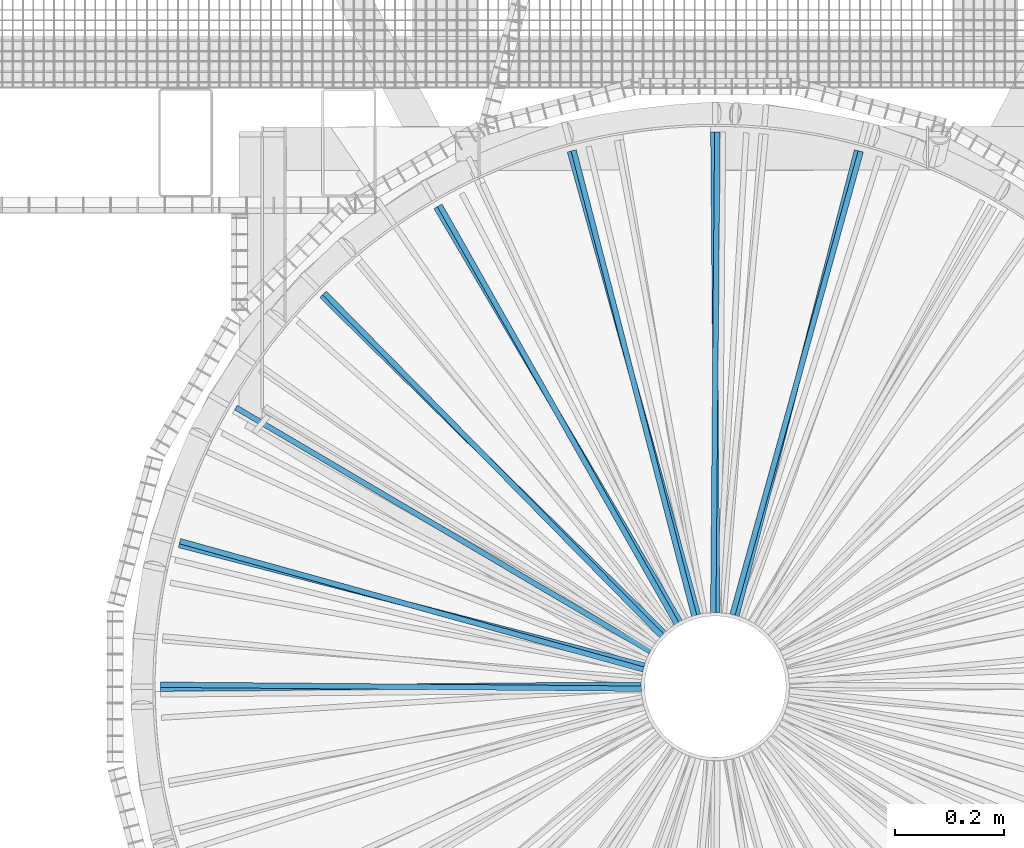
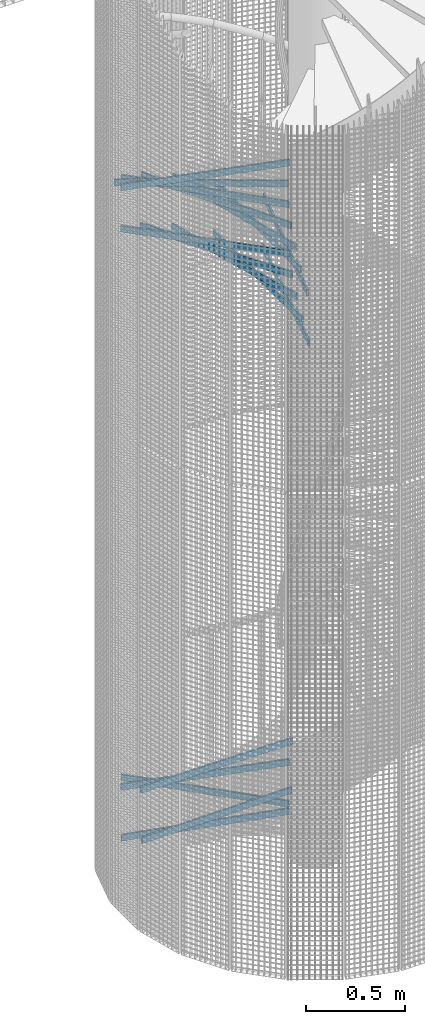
# One storey, part 228 of 1183: 17 beams, 1 element without a shape of its own.
"""IFC2X3 building model written with IfcOpenShell, lengths in millimetres."""

from ifc_helpers import new_model, si_unit, frame, origin_with_axes, origin_2d_with_axis, place, context, subcontext, project, spatial, polyline, rectangle, outline, extrude, boolean, material, type_object, element, aggregate, save


model = new_model("IFC2X3")

# Units and contexts
model_context = context("Model", 3, precision=1e-05, world=origin_with_axes())
body_context = subcontext(model_context, "Body", "Model", "MODEL_VIEW")
ifc_project = project(units=[si_unit("LENGTHUNIT", "METRE", prefix="MILLI"), si_unit("AREAUNIT", "SQUARE_METRE"), si_unit("VOLUMEUNIT", "CUBIC_METRE"), si_unit("MASSUNIT", "GRAM", prefix="KILO"), si_unit("TIMEUNIT", "SECOND"), si_unit("PLANEANGLEUNIT", "RADIAN"), si_unit("SOLIDANGLEUNIT", "STERADIAN"), si_unit("THERMODYNAMICTEMPERATUREUNIT", "DEGREE_CELSIUS"), si_unit("LUMINOUSINTENSITYUNIT", "LUMEN")], contexts=[model_context])

# Site, building, storey
site_placement = place(None, origin_with_axes())
site = spatial("IfcSite", under=ifc_project, at=site_placement, Name="Undefined", CompositionType="ELEMENT")
building_placement = place(site_placement, origin_with_axes())
building = spatial("IfcBuilding", under=site, at=building_placement, Name="Undefined", CompositionType="ELEMENT")
storey_placement = place(building_placement, origin_with_axes())
storey = spatial("IfcBuildingStorey", under=building, at=storey_placement, Name="Undefined", CompositionType="ELEMENT", Elevation=0.0)

# Assembly, beams
assembly_placement = place(storey_placement, origin_with_axes())
assembly = element("IfcElementAssembly", 1, at=assembly_placement, inside=storey, Name="POTEAU", AssemblyPlace="NOTDEFINED", PredefinedType="NOTDEFINED")
ifc_material = material(Name="STEEL/S235JR")
beam_type = type_object("IfcBeamType", Name="PL10*40", PredefinedType="NOTDEFINED")
beam_1_placement = place(assembly_placement, frame((17.5845129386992, 82.1984248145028, 3375.44), z_axis=(0.0, 0.0, 1.0), x_axis=(0.266990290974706, 0.963699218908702, 0.0)))
beam_1 = element("IfcBeam", 2, at=beam_1_placement, type_object=beam_type, material=ifc_material, Name="RAIDISSEUR", context=body_context, shape_type="CSG", body=[
    boolean("DIFFERENCE", extrude(rectangle(XDim=10.0, YDim=40.0, at=origin_2d_with_axis()), frame((935.982964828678, -2.59787459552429e-14, -3.63797880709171e-12), z_axis=(-1.0, 0.0, 0.0), x_axis=(0.0, -1.0, 0.0)), (0.0, 0.0, 1.0), 935.98), extrude(outline(polyline([(0.0, 0.0), (30.5663019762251, -4.91127138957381e-11), (60.366242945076, 6.80164206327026), (87.9055294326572, 20.0638634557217), (111.803226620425, 39.1216410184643), (130.861004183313, 63.0193382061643), (144.123225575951, 90.5586246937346), (150.9248676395, 120.358565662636), (150.924867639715, 150.924867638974), (144.123225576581, 180.724808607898), (130.86100418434, 208.264095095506), (111.803226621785, 232.161792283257), (87.9055294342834, 251.219569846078), (60.3662429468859, 264.481791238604), (30.5663019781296, 271.283433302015), (1.90266291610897e-09, 271.28343330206), (-29.7999409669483, 264.481791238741), (-57.3392274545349, 251.219569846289), (-81.2369246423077, 232.161792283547), (-100.294702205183, 208.26409509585), (-113.556923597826, 180.724808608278), (-120.35856566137, 150.92486763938), (-120.358565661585, 120.358565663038), (-113.556923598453, 90.5586246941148), (-100.294702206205, 63.0193382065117), (-81.2369246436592, 39.1216410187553), (-57.3392274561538, 20.0638634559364), (-29.7999409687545, 6.80164206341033), (0.0, 0.0)])), frame((-117.062792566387, 127.412635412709, -22.4999999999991), z_axis=(0.0, 0.0, 1.0), x_axis=(-0.936762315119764, -0.349966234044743, 0.0)), (0.0, 0.0, 1.0), 45.0)),
])
beam_2_placement = place(assembly_placement, frame((-38.2598530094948, 74.8463745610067, 3529.96), z_axis=(0.0, 0.0, 1.0), x_axis=(-0.507316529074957, 0.861759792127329, 0.0)))
beam_2 = element("IfcBeam", 3, at=beam_2_placement, type_object=beam_type, material=ifc_material, Name="RAIDISSEUR", context=body_context, shape_type="CSG", body=[
    boolean("DIFFERENCE", extrude(rectangle(XDim=10.0, YDim=40.0, at=origin_2d_with_axis()), frame((935.982964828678, -2.59787459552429e-14, -3.63797880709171e-12), z_axis=(-1.0, 0.0, 0.0), x_axis=(0.0, -1.0, 0.0)), (0.0, 0.0, 1.0), 935.98), extrude(outline(polyline([(0.0, 0.0), (30.5663019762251, -4.91127138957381e-11), (60.366242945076, 6.80164206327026), (87.9055294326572, 20.0638634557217), (111.803226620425, 39.1216410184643), (130.861004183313, 63.0193382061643), (144.123225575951, 90.5586246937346), (150.9248676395, 120.358565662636), (150.924867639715, 150.924867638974), (144.123225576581, 180.724808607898), (130.86100418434, 208.264095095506), (111.803226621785, 232.161792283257), (87.9055294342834, 251.219569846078), (60.3662429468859, 264.481791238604), (30.5663019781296, 271.283433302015), (1.90266291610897e-09, 271.28343330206), (-29.7999409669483, 264.481791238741), (-57.3392274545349, 251.219569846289), (-81.2369246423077, 232.161792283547), (-100.294702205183, 208.26409509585), (-113.556923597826, 180.724808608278), (-120.35856566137, 150.92486763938), (-120.358565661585, 120.358565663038), (-113.556923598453, 90.5586246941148), (-100.294702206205, 63.0193382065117), (-81.2369246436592, 39.1216410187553), (-57.3392274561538, 20.0638634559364), (-29.7999409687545, 6.80164206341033), (0.0, 0.0)])), frame((-11.7496667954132, 120.867231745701, -22.5), z_axis=(0.0, 0.0, 1.0), x_axis=(-0.902696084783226, 0.430278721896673, 0.0)), (0.0, 0.0, 1.0), 45.0)),
])
beam_3_placement = place(assembly_placement, frame((-56.3278473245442, 62.3936675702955, 3684.48), z_axis=(0.0, 0.0, 1.0), x_axis=(-0.713069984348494, 0.70109285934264, 0.0)))
beam_3 = element("IfcBeam", 4, at=beam_3_placement, type_object=beam_type, material=ifc_material, Name="RAIDISSEUR", context=body_context, shape_type="CSG", body=[
    boolean("DIFFERENCE", extrude(rectangle(XDim=10.0, YDim=40.0, at=origin_2d_with_axis()), frame((935.982964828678, -2.59787459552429e-14, -3.63797880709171e-12), z_axis=(-1.0, 0.0, 0.0), x_axis=(0.0, -1.0, 0.0)), (0.0, 0.0, 1.0), 935.98), extrude(outline(polyline([(0.0, 0.0), (30.5663019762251, -4.91127138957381e-11), (60.366242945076, 6.80164206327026), (87.9055294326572, 20.0638634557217), (111.803226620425, 39.1216410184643), (130.861004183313, 63.0193382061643), (144.123225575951, 90.5586246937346), (150.9248676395, 120.358565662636), (150.924867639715, 150.924867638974), (144.123225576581, 180.724808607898), (130.86100418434, 208.264095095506), (111.803226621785, 232.161792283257), (87.9055294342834, 251.219569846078), (60.3662429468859, 264.481791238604), (30.5663019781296, 271.283433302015), (1.90266291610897e-09, 271.28343330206), (-29.7999409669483, 264.481791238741), (-57.3392274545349, 251.219569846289), (-81.2369246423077, 232.161792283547), (-100.294702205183, 208.26409509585), (-113.556923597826, 180.724808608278), (-120.35856566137, 150.92486763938), (-120.358565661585, 120.358565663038), (-113.556923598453, 90.5586246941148), (-100.294702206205, 63.0193382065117), (-81.2369246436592, 39.1216410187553), (-57.3392274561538, 20.0638634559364), (-29.7999409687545, 6.80164206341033), (0.0, 0.0)])), frame((15.7801944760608, 98.2428248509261, -22.5), z_axis=(0.0, 0.0, 1.0), x_axis=(-0.760573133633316, 0.649252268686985, 0.0)), (0.0, 0.0, 1.0), 45.0)),
])
beam_4_placement = place(assembly_placement, frame((-74.8463745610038, 38.2598530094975, 4148.04), z_axis=(0.0, 0.0, 1.0), x_axis=(-0.861759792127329, 0.507316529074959, 0.0)))
beam_4 = element("IfcBeam", 5, at=beam_4_placement, type_object=beam_type, material=ifc_material, Name="RAIDISSEUR", context=body_context, shape_type="CSG", body=[
    boolean("DIFFERENCE", extrude(rectangle(XDim=10.0, YDim=40.0, at=origin_2d_with_axis()), frame((935.982964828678, -2.59787459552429e-14, -3.63797880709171e-12), z_axis=(-1.0, 0.0, 0.0), x_axis=(0.0, -1.0, 0.0)), (0.0, 0.0, 1.0), 935.98), extrude(outline(polyline([(0.0, 0.0), (30.5663019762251, -4.91127138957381e-11), (60.366242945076, 6.80164206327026), (87.9055294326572, 20.0638634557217), (111.803226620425, 39.1216410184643), (130.861004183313, 63.0193382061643), (144.123225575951, 90.5586246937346), (150.9248676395, 120.358565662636), (150.924867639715, 150.924867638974), (144.123225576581, 180.724808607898), (130.86100418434, 208.264095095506), (111.803226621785, 232.161792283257), (87.9055294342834, 251.219569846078), (60.3662429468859, 264.481791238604), (30.5663019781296, 271.283433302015), (1.90266291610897e-09, 271.28343330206), (-29.7999409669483, 264.481791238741), (-57.3392274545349, 251.219569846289), (-81.2369246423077, 232.161792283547), (-100.294702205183, 208.26409509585), (-113.556923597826, 180.724808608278), (-120.35856566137, 150.92486763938), (-120.358565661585, 120.358565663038), (-113.556923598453, 90.5586246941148), (-100.294702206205, 63.0193382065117), (-81.2369246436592, 39.1216410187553), (-57.3392274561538, 20.0638634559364), (-29.7999409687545, 6.80164206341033), (0.0, 0.0)])), frame((35.4106162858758, 61.2945797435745, -22.5), z_axis=(0.0, 0.0, 1.0), x_axis=(-0.580493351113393, 0.814264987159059, 0.0)), (0.0, 0.0, 1.0), 45.0)),
])
beam_5_placement = place(assembly_placement, frame((-82.1984248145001, 17.5845129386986, 4302.56), z_axis=(0.0, 0.0, 1.0), x_axis=(-0.963699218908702, 0.266990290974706, 0.0)))
beam_5 = element("IfcBeam", 6, at=beam_5_placement, type_object=beam_type, material=ifc_material, Name="RAIDISSEUR", context=body_context, shape_type="CSG", body=[
    boolean("DIFFERENCE", extrude(rectangle(XDim=10.0, YDim=40.0, at=origin_2d_with_axis()), frame((935.982964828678, -2.59787459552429e-14, -3.63797880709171e-12), z_axis=(-1.0, 0.0, 0.0), x_axis=(0.0, -1.0, 0.0)), (0.0, 0.0, 1.0), 935.98), extrude(outline(polyline([(0.0, 0.0), (30.5663019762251, -4.91127138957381e-11), (60.366242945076, 6.80164206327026), (87.9055294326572, 20.0638634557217), (111.803226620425, 39.1216410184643), (130.861004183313, 63.0193382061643), (144.123225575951, 90.5586246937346), (150.9248676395, 120.358565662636), (150.924867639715, 150.924867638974), (144.123225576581, 180.724808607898), (130.86100418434, 208.264095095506), (111.803226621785, 232.161792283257), (87.9055294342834, 251.219569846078), (60.3662429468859, 264.481791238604), (30.5663019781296, 271.283433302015), (1.90266291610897e-09, 271.28343330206), (-29.7999409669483, 264.481791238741), (-57.3392274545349, 251.219569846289), (-81.2369246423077, 232.161792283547), (-100.294702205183, 208.26409509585), (-113.556923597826, 180.724808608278), (-120.35856566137, 150.92486763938), (-120.358565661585, 120.358565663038), (-113.556923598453, 90.5586246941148), (-100.294702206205, 63.0193382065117), (-81.2369246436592, 39.1216410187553), (-57.3392274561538, 20.0638634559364), (-29.7999409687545, 6.80164206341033), (0.0, 0.0)])), frame((48.5031833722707, 28.1533405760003, -22.5), z_axis=(0.0, 0.0, 1.0), x_axis=(-0.349966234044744, 0.936762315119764, 0.0)), (0.0, 0.0, 1.0), 45.0)),
])
beam_6_placement = place(assembly_placement, frame((-4.28918262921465, 83.9487882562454, 3529.96), z_axis=(0.0, 0.0, 1.0), x_axis=(0.00846910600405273, 0.99996413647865, 0.0)))
beam_6 = element("IfcBeam", 7, at=beam_6_placement, type_object=beam_type, material=ifc_material, Name="RAIDISSEUR", context=body_context, shape_type="CSG", body=[
    boolean("DIFFERENCE", extrude(rectangle(XDim=10.0, YDim=40.0, at=origin_2d_with_axis()), frame((935.982964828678, -2.59787459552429e-14, -3.63797880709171e-12), z_axis=(-1.0, 0.0, 0.0), x_axis=(0.0, -1.0, 0.0)), (0.0, 0.0, 1.0), 935.98), extrude(outline(polyline([(0.0, 0.0), (30.5663019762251, -4.91127138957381e-11), (60.366242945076, 6.80164206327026), (87.9055294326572, 20.0638634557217), (111.803226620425, 39.1216410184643), (130.861004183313, 63.0193382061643), (144.123225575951, 90.5586246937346), (150.9248676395, 120.358565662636), (150.924867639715, 150.924867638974), (144.123225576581, 180.724808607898), (130.86100418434, 208.264095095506), (111.803226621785, 232.161792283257), (87.9055294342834, 251.219569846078), (60.3662429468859, 264.481791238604), (30.5663019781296, 271.283433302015), (1.90266291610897e-09, 271.28343330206), (-29.7999409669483, 264.481791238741), (-57.3392274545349, 251.219569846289), (-81.2369246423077, 232.161792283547), (-100.294702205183, 208.26409509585), (-113.556923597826, 180.724808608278), (-120.35856566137, 150.92486763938), (-120.358565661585, 120.358565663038), (-113.556923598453, 90.5586246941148), (-100.294702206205, 63.0193382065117), (-81.2369246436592, 39.1216410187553), (-57.3392274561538, 20.0638634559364), (-29.7999409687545, 6.80164206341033), (0.0, 0.0)])), frame((-81.6622080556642, 131.481500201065, -22.5000000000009), z_axis=(0.0, 0.0, 1.0), x_axis=(-0.995420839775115, -0.0955894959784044, 0.0)), (0.0, 0.0, 1.0), 45.0)),
])
beam_7_placement = place(assembly_placement, frame((4.28918262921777, 83.9487882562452, 3220.92), z_axis=(0.0, 0.0, 1.0), x_axis=(-0.00846910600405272, 0.99996413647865, 0.0)))
beam_7 = element("IfcBeam", 8, at=beam_7_placement, type_object=beam_type, material=ifc_material, Name="RAIDISSEUR", context=body_context, shape_type="CSG", body=[
    boolean("DIFFERENCE", extrude(rectangle(XDim=10.0, YDim=40.0, at=origin_2d_with_axis()), frame((935.982964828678, -2.59787459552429e-14, -3.63797880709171e-12), z_axis=(-1.0, 0.0, 0.0), x_axis=(0.0, -1.0, 0.0)), (0.0, 0.0, 1.0), 935.98), extrude(outline(polyline([(0.0, 0.0), (30.5663019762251, -4.91127138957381e-11), (60.366242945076, 6.80164206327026), (87.9055294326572, 20.0638634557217), (111.803226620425, 39.1216410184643), (130.861004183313, 63.0193382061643), (144.123225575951, 90.5586246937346), (150.9248676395, 120.358565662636), (150.924867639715, 150.924867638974), (144.123225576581, 180.724808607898), (130.86100418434, 208.264095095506), (111.803226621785, 232.161792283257), (87.9055294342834, 251.219569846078), (60.3662429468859, 264.481791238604), (30.5663019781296, 271.283433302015), (1.90266291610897e-09, 271.28343330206), (-29.7999409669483, 264.481791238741), (-57.3392274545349, 251.219569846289), (-81.2369246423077, 232.161792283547), (-100.294702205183, 208.26409509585), (-113.556923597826, 180.724808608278), (-120.35856566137, 150.92486763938), (-120.358565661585, 120.358565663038), (-113.556923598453, 90.5586246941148), (-100.294702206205, 63.0193382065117), (-81.2369246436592, 39.1216410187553), (-57.3392274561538, 20.0638634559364), (-29.7999409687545, 6.80164206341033), (0.0, 0.0)])), frame((-79.3508607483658, 141.423858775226, -22.5), z_axis=(0.0, 0.0, 1.0), x_axis=(-0.996897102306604, -0.0787157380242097, 0.0)), (0.0, 0.0, 1.0), 45.0)),
])
beam_8_placement = place(assembly_placement, frame((-62.393667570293, 56.3278473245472, 285.04), z_axis=(0.0, 0.0, 1.0), x_axis=(-0.70109285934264, 0.713069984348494, 0.0)))
beam_8 = element("IfcBeam", 9, at=beam_8_placement, type_object=beam_type, material=ifc_material, Name="RAIDISSEUR", context=body_context, shape_type="CSG", body=[
    boolean("DIFFERENCE", extrude(rectangle(XDim=10.0, YDim=40.0, at=origin_2d_with_axis()), frame((935.982964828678, -2.59787459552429e-14, -3.63797880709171e-12), z_axis=(-1.0, 0.0, 0.0), x_axis=(0.0, -1.0, 0.0)), (0.0, 0.0, 1.0), 935.98), extrude(outline(polyline([(0.0, 0.0), (30.5663019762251, -4.91127138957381e-11), (60.366242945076, 6.80164206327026), (87.9055294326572, 20.0638634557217), (111.803226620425, 39.1216410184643), (130.861004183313, 63.0193382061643), (144.123225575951, 90.5586246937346), (150.9248676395, 120.358565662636), (150.924867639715, 150.924867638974), (144.123225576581, 180.724808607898), (130.86100418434, 208.264095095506), (111.803226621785, 232.161792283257), (87.9055294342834, 251.219569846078), (60.3662429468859, 264.481791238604), (30.5663019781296, 271.283433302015), (1.90266291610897e-09, 271.28343330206), (-29.7999409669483, 264.481791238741), (-57.3392274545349, 251.219569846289), (-81.2369246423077, 232.161792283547), (-100.294702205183, 208.26409509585), (-113.556923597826, 180.724808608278), (-120.35856566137, 150.92486763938), (-120.358565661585, 120.358565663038), (-113.556923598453, 90.5586246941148), (-100.294702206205, 63.0193382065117), (-81.2369246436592, 39.1216410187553), (-57.3392274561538, 20.0638634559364), (-29.7999409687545, 6.80164206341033), (0.0, 0.0)])), frame((14.1865836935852, 89.9179528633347, -22.5), z_axis=(0.0, 0.0, 1.0), x_axis=(-0.771460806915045, 0.636276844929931, 0.0)), (0.0, 0.0, 1.0), 45.0)),
])
beam_9_placement = place(assembly_placement, frame((-79.9781805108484, 25.8705774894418, 285.04), z_axis=(0.0, 0.0, 1.0), x_axis=(-0.968083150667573, 0.250629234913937, 0.0)))
beam_9 = element("IfcBeam", 10, at=beam_9_placement, type_object=beam_type, material=ifc_material, Name="RAIDISSEUR", context=body_context, shape_type="CSG", body=[
    boolean("DIFFERENCE", extrude(rectangle(XDim=10.0, YDim=40.0, at=origin_2d_with_axis()), frame((935.982964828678, -2.59787459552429e-14, -3.63797880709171e-12), z_axis=(-1.0, 0.0, 0.0), x_axis=(0.0, -1.0, 0.0)), (0.0, 0.0, 1.0), 935.98), extrude(outline(polyline([(0.0, 0.0), (30.5663019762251, -4.91127138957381e-11), (60.366242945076, 6.80164206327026), (87.9055294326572, 20.0638634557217), (111.803226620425, 39.1216410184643), (130.861004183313, 63.0193382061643), (144.123225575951, 90.5586246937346), (150.9248676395, 120.358565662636), (150.924867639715, 150.924867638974), (144.123225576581, 180.724808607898), (130.86100418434, 208.264095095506), (111.803226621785, 232.161792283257), (87.9055294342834, 251.219569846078), (60.3662429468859, 264.481791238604), (30.5663019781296, 271.283433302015), (1.90266291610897e-09, 271.28343330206), (-29.7999409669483, 264.481791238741), (-57.3392274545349, 251.219569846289), (-81.2369246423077, 232.161792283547), (-100.294702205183, 208.26409509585), (-113.556923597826, 180.724808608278), (-120.35856566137, 150.92486763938), (-120.358565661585, 120.358565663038), (-113.556923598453, 90.5586246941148), (-100.294702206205, 63.0193382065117), (-81.2369246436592, 39.1216410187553), (-57.3392274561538, 20.0638634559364), (-29.7999409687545, 6.80164206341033), (0.0, 0.0)])), frame((49.045726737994, 35.9058318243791, -22.5), z_axis=(0.0, 0.0, 1.0), x_axis=(-0.334049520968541, 0.942555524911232, 0.0)), (0.0, 0.0, 1.0), 45.0)),
])
beam_10_placement = place(assembly_placement, frame((-82.1984248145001, 17.5845129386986, 594.08), z_axis=(0.0, 0.0, 1.0), x_axis=(-0.963699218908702, 0.266990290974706, 0.0)))
beam_10 = element("IfcBeam", 11, at=beam_10_placement, type_object=beam_type, material=ifc_material, Name="RAIDISSEUR", context=body_context, shape_type="CSG", body=[
    boolean("DIFFERENCE", extrude(rectangle(XDim=10.0, YDim=40.0, at=origin_2d_with_axis()), frame((935.982964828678, -2.59787459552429e-14, -3.63797880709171e-12), z_axis=(-1.0, 0.0, 0.0), x_axis=(0.0, -1.0, 0.0)), (0.0, 0.0, 1.0), 935.98), extrude(outline(polyline([(0.0, 0.0), (30.5663019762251, -4.91127138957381e-11), (60.366242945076, 6.80164206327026), (87.9055294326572, 20.0638634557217), (111.803226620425, 39.1216410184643), (130.861004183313, 63.0193382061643), (144.123225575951, 90.5586246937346), (150.9248676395, 120.358565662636), (150.924867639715, 150.924867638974), (144.123225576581, 180.724808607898), (130.86100418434, 208.264095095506), (111.803226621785, 232.161792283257), (87.9055294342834, 251.219569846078), (60.3662429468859, 264.481791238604), (30.5663019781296, 271.283433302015), (1.90266291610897e-09, 271.28343330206), (-29.7999409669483, 264.481791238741), (-57.3392274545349, 251.219569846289), (-81.2369246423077, 232.161792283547), (-100.294702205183, 208.26409509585), (-113.556923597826, 180.724808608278), (-120.35856566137, 150.92486763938), (-120.358565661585, 120.358565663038), (-113.556923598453, 90.5586246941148), (-100.294702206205, 63.0193382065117), (-81.2369246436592, 39.1216410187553), (-57.3392274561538, 20.0638634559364), (-29.7999409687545, 6.80164206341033), (0.0, 0.0)])), frame((48.5031833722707, 28.1533405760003, -22.5), z_axis=(0.0, 0.0, 1.0), x_axis=(-0.349966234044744, 0.936762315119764, 0.0)), (0.0, 0.0, 1.0), 45.0)),
])
beam_11_placement = place(assembly_placement, frame((-17.5845129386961, 82.1984248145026, 3375.44), z_axis=(0.0, 0.0, 1.0), x_axis=(-0.266990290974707, 0.963699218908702, 0.0)))
beam_11 = element("IfcBeam", 12, at=beam_11_placement, type_object=beam_type, material=ifc_material, Name="RAIDISSEUR", context=body_context, shape_type="CSG", body=[
    boolean("DIFFERENCE", extrude(rectangle(XDim=10.0, YDim=40.0, at=origin_2d_with_axis()), frame((935.982964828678, -2.59787459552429e-14, -3.63797880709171e-12), z_axis=(-1.0, 0.0, 0.0), x_axis=(0.0, -1.0, 0.0)), (0.0, 0.0, 1.0), 935.98), extrude(outline(polyline([(0.0, 0.0), (30.5663019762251, -4.91127138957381e-11), (60.366242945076, 6.80164206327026), (87.9055294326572, 20.0638634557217), (111.803226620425, 39.1216410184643), (130.861004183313, 63.0193382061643), (144.123225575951, 90.5586246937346), (150.9248676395, 120.358565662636), (150.924867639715, 150.924867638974), (144.123225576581, 180.724808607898), (130.86100418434, 208.264095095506), (111.803226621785, 232.161792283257), (87.9055294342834, 251.219569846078), (60.3662429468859, 264.481791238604), (30.5663019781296, 271.283433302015), (1.90266291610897e-09, 271.28343330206), (-29.7999409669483, 264.481791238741), (-57.3392274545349, 251.219569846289), (-81.2369246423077, 232.161792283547), (-100.294702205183, 208.26409509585), (-113.556923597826, 180.724808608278), (-120.35856566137, 150.92486763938), (-120.358565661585, 120.358565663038), (-113.556923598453, 90.5586246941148), (-100.294702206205, 63.0193382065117), (-81.2369246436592, 39.1216410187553), (-57.3392274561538, 20.0638634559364), (-29.7999409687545, 6.80164206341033), (0.0, 0.0)])), frame((-44.1970981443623, 135.595478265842, -22.4999999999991), z_axis=(0.0, 0.0, 1.0), x_axis=(-0.983301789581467, 0.181982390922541, 0.0)), (0.0, 0.0, 1.0), 45.0)),
])
beam_12_placement = place(assembly_placement, frame((-25.8705774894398, 79.9781805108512, 3684.48), z_axis=(0.0, 0.0, 1.0), x_axis=(-0.250629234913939, 0.968083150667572, 0.0)))
beam_12 = element("IfcBeam", 13, at=beam_12_placement, type_object=beam_type, material=ifc_material, Name="RAIDISSEUR", context=body_context, shape_type="CSG", body=[
    boolean("DIFFERENCE", extrude(rectangle(XDim=10.0, YDim=40.0, at=origin_2d_with_axis()), frame((935.982964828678, -2.59787459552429e-14, -3.63797880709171e-12), z_axis=(-1.0, 0.0, 0.0), x_axis=(0.0, -1.0, 0.0)), (0.0, 0.0, 1.0), 935.98), extrude(outline(polyline([(0.0, 0.0), (30.5663019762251, -4.91127138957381e-11), (60.366242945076, 6.80164206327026), (87.9055294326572, 20.0638634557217), (111.803226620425, 39.1216410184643), (130.861004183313, 63.0193382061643), (144.123225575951, 90.5586246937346), (150.9248676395, 120.358565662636), (150.924867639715, 150.924867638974), (144.123225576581, 180.724808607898), (130.86100418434, 208.264095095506), (111.803226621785, 232.161792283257), (87.9055294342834, 251.219569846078), (60.3662429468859, 264.481791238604), (30.5663019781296, 271.283433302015), (1.90266291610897e-09, 271.28343330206), (-29.7999409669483, 264.481791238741), (-57.3392274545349, 251.219569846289), (-81.2369246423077, 232.161792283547), (-100.294702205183, 208.26409509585), (-113.556923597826, 180.724808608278), (-120.35856566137, 150.92486763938), (-120.358565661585, 120.358565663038), (-113.556923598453, 90.5586246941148), (-100.294702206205, 63.0193382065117), (-81.2369246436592, 39.1216410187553), (-57.3392274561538, 20.0638634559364), (-29.7999409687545, 6.80164206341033), (0.0, 0.0)])), frame((-46.4147694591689, 126.249376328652, -22.5), z_axis=(0.0, 0.0, 1.0), x_axis=(-0.986243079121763, 0.165301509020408, 0.0)), (0.0, 0.0, 1.0), 45.0)),
])
beam_13_placement = place(assembly_placement, frame((-83.9487882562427, 4.28918262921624, 439.56), z_axis=(0.0, 0.0, 1.0), x_axis=(-0.99996413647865, -0.00846910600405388, 0.0)))
beam_13 = element("IfcBeam", 14, at=beam_13_placement, type_object=beam_type, material=ifc_material, Name="RAIDISSEUR", context=body_context, shape_type="CSG", body=[
    boolean("DIFFERENCE", extrude(rectangle(XDim=10.0, YDim=40.0, at=origin_2d_with_axis()), frame((935.982964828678, -2.59787459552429e-14, -3.63797880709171e-12), z_axis=(-1.0, 0.0, 0.0), x_axis=(0.0, -1.0, 0.0)), (0.0, 0.0, 1.0), 935.98), extrude(outline(polyline([(0.0, 0.0), (30.5663019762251, -4.91127138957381e-11), (60.366242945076, 6.80164206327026), (87.9055294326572, 20.0638634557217), (111.803226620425, 39.1216410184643), (130.861004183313, 63.0193382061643), (144.123225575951, 90.5586246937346), (150.9248676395, 120.358565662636), (150.924867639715, 150.924867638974), (144.123225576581, 180.724808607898), (130.86100418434, 208.264095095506), (111.803226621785, 232.161792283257), (87.9055294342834, 251.219569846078), (60.3662429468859, 264.481791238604), (30.5663019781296, 271.283433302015), (1.90266291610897e-09, 271.28343330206), (-29.7999409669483, 264.481791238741), (-57.3392274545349, 251.219569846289), (-81.2369246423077, 232.161792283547), (-100.294702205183, 208.26409509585), (-113.556923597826, 180.724808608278), (-120.35856566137, 150.92486763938), (-120.358565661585, 120.358565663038), (-113.556923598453, 90.5586246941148), (-100.294702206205, 63.0193382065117), (-81.2369246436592, 39.1216410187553), (-57.3392274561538, 20.0638634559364), (-29.7999409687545, 6.80164206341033), (0.0, 0.0)])), frame((52.5144067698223, 0.441408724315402, -22.5000000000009), z_axis=(0.0, 0.0, 1.0), x_axis=(-0.0787157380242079, 0.996897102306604, 0.0)), (0.0, 0.0, 1.0), 45.0)),
])
beam_14_placement = place(assembly_placement, frame((-62.393667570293, 56.3278473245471, 3993.52), z_axis=(0.0, 0.0, 1.0), x_axis=(-0.70109285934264, 0.713069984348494, 0.0)))
beam_14 = element("IfcBeam", 15, at=beam_14_placement, type_object=beam_type, material=ifc_material, Name="RAIDISSEUR", context=body_context, shape_type="CSG", body=[
    boolean("DIFFERENCE", extrude(rectangle(XDim=10.0, YDim=40.0, at=origin_2d_with_axis()), frame((935.982964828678, -2.59787459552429e-14, -3.63797880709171e-12), z_axis=(-1.0, 0.0, 0.0), x_axis=(0.0, -1.0, 0.0)), (0.0, 0.0, 1.0), 935.98), extrude(outline(polyline([(0.0, 0.0), (30.5663019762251, -4.91127138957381e-11), (60.366242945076, 6.80164206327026), (87.9055294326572, 20.0638634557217), (111.803226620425, 39.1216410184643), (130.861004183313, 63.0193382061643), (144.123225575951, 90.5586246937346), (150.9248676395, 120.358565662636), (150.924867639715, 150.924867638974), (144.123225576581, 180.724808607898), (130.86100418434, 208.264095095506), (111.803226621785, 232.161792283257), (87.9055294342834, 251.219569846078), (60.3662429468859, 264.481791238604), (30.5663019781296, 271.283433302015), (1.90266291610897e-09, 271.28343330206), (-29.7999409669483, 264.481791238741), (-57.3392274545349, 251.219569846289), (-81.2369246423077, 232.161792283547), (-100.294702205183, 208.26409509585), (-113.556923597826, 180.724808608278), (-120.35856566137, 150.92486763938), (-120.358565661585, 120.358565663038), (-113.556923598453, 90.5586246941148), (-100.294702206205, 63.0193382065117), (-81.2369246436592, 39.1216410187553), (-57.3392274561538, 20.0638634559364), (-29.7999409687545, 6.80164206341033), (0.0, 0.0)])), frame((14.1865836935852, 89.9179528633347, -22.5), z_axis=(0.0, 0.0, 1.0), x_axis=(-0.771460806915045, 0.636276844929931, 0.0)), (0.0, 0.0, 1.0), 45.0)),
])
beam_15_placement = place(assembly_placement, frame((-83.9487882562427, -4.28918262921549, 748.6), z_axis=(0.0, 0.0, 1.0), x_axis=(-0.99996413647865, 0.00846910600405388, 0.0)))
beam_15 = element("IfcBeam", 16, at=beam_15_placement, type_object=beam_type, material=ifc_material, Name="RAIDISSEUR", context=body_context, shape_type="CSG", body=[
    boolean("DIFFERENCE", extrude(rectangle(XDim=10.0, YDim=40.0, at=origin_2d_with_axis()), frame((935.982964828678, -2.59787459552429e-14, -3.63797880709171e-12), z_axis=(-1.0, 0.0, 0.0), x_axis=(0.0, -1.0, 0.0)), (0.0, 0.0, 1.0), 935.98), extrude(outline(polyline([(0.0, 0.0), (30.5663019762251, -4.91127138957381e-11), (60.366242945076, 6.80164206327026), (87.9055294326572, 20.0638634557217), (111.803226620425, 39.1216410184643), (130.861004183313, 63.0193382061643), (144.123225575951, 90.5586246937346), (150.9248676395, 120.358565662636), (150.924867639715, 150.924867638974), (144.123225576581, 180.724808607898), (130.86100418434, 208.264095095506), (111.803226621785, 232.161792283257), (87.9055294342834, 251.219569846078), (60.3662429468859, 264.481791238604), (30.5663019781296, 271.283433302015), (1.90266291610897e-09, 271.28343330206), (-29.7999409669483, 264.481791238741), (-57.3392274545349, 251.219569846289), (-81.2369246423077, 232.161792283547), (-100.294702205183, 208.26409509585), (-113.556923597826, 180.724808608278), (-120.35856566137, 150.92486763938), (-120.358565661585, 120.358565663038), (-113.556923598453, 90.5586246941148), (-100.294702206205, 63.0193382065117), (-81.2369246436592, 39.1216410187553), (-57.3392274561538, 20.0638634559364), (-29.7999409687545, 6.80164206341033), (0.0, 0.0)])), frame((52.5720481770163, -7.24724394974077, -22.5000000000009), z_axis=(0.0, 0.0, 1.0), x_axis=(-0.0955894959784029, 0.995420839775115, 0.0)), (0.0, 0.0, 1.0), 45.0)),
])
beam_16_placement = place(assembly_placement, frame((25.870577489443, 79.9781805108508, 3066.4), z_axis=(0.0, 0.0, 1.0), x_axis=(0.250629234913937, 0.968083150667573, 0.0)))
beam_16 = element("IfcBeam", 17, at=beam_16_placement, type_object=beam_type, material=ifc_material, Name="RAIDISSEUR", context=body_context, shape_type="CSG", body=[
    boolean("DIFFERENCE", extrude(rectangle(XDim=10.0, YDim=40.0, at=origin_2d_with_axis()), frame((935.982964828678, -2.59787459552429e-14, -3.63797880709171e-12), z_axis=(-1.0, 0.0, 0.0), x_axis=(0.0, -1.0, 0.0)), (0.0, 0.0, 1.0), 935.98), extrude(outline(polyline([(0.0, 0.0), (30.5663019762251, -4.91127138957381e-11), (60.366242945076, 6.80164206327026), (87.9055294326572, 20.0638634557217), (111.803226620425, 39.1216410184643), (130.861004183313, 63.0193382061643), (144.123225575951, 90.5586246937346), (150.9248676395, 120.358565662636), (150.924867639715, 150.924867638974), (144.123225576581, 180.724808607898), (130.86100418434, 208.264095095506), (111.803226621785, 232.161792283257), (87.9055294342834, 251.219569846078), (60.3662429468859, 264.481791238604), (30.5663019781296, 271.283433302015), (1.90266291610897e-09, 271.28343330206), (-29.7999409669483, 264.481791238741), (-57.3392274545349, 251.219569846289), (-81.2369246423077, 232.161792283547), (-100.294702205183, 208.26409509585), (-113.556923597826, 180.724808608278), (-120.35856566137, 150.92486763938), (-120.358565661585, 120.358565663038), (-113.556923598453, 90.5586246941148), (-100.294702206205, 63.0193382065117), (-81.2369246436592, 39.1216410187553), (-57.3392274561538, 20.0638634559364), (-29.7999409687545, 6.80164206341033), (0.0, 0.0)])), frame((-114.815283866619, 137.955178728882, -22.5), z_axis=(0.0, 0.0, 1.0), x_axis=(-0.942555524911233, -0.33404952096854, 0.0)), (0.0, 0.0, 1.0), 45.0)),
])
beam_17_placement = place(assembly_placement, frame((-45.6889352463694, 70.5571919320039, 3839.0), z_axis=(0.0, 0.0, 1.0), x_axis=(-0.492647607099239, 0.870228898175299, 0.0)))
beam_17 = element("IfcBeam", 18, at=beam_17_placement, type_object=beam_type, material=ifc_material, Name="RAIDISSEUR", context=body_context, shape_type="CSG", body=[
    boolean("DIFFERENCE", extrude(rectangle(XDim=10.0, YDim=40.0, at=origin_2d_with_axis()), frame((935.982964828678, -2.59787459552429e-14, -3.63797880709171e-12), z_axis=(-1.0, 0.0, 0.0), x_axis=(0.0, -1.0, 0.0)), (0.0, 0.0, 1.0), 935.98), extrude(outline(polyline([(0.0, 0.0), (30.5663019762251, -4.91127138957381e-11), (60.366242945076, 6.80164206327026), (87.9055294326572, 20.0638634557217), (111.803226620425, 39.1216410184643), (130.861004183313, 63.0193382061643), (144.123225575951, 90.5586246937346), (150.9248676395, 120.358565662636), (150.924867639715, 150.924867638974), (144.123225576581, 180.724808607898), (130.86100418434, 208.264095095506), (111.803226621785, 232.161792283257), (87.9055294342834, 251.219569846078), (60.3662429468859, 264.481791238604), (30.5663019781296, 271.283433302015), (1.90266291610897e-09, 271.28343330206), (-29.7999409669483, 264.481791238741), (-57.3392274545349, 251.219569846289), (-81.2369246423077, 232.161792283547), (-100.294702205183, 208.26409509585), (-113.556923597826, 180.724808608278), (-120.35856566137, 150.92486763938), (-120.358565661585, 120.358565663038), (-113.556923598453, 90.5586246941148), (-100.294702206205, 63.0193382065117), (-81.2369246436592, 39.1216410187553), (-57.3392274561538, 20.0638634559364), (-29.7999409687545, 6.80164206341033), (0.0, 0.0)])), frame((-13.7225315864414, 112.072824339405, -22.5000000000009), z_axis=(0.0, 0.0, 1.0), x_axis=(-0.909854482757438, 0.414927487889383, 0.0)), (0.0, 0.0, 1.0), 45.0)),
])
aggregate(assembly, [beam_1, beam_2, beam_3, beam_4, beam_5, beam_6, beam_7, beam_8, beam_9, beam_10, beam_11, beam_12, beam_13, beam_14, beam_15, beam_16, beam_17])

save(model, "model.ifc")
